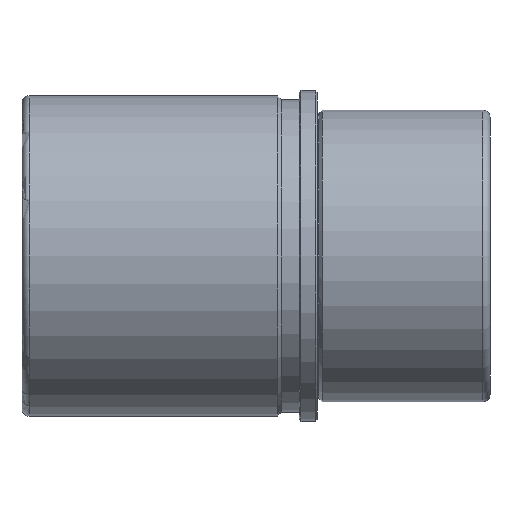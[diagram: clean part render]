
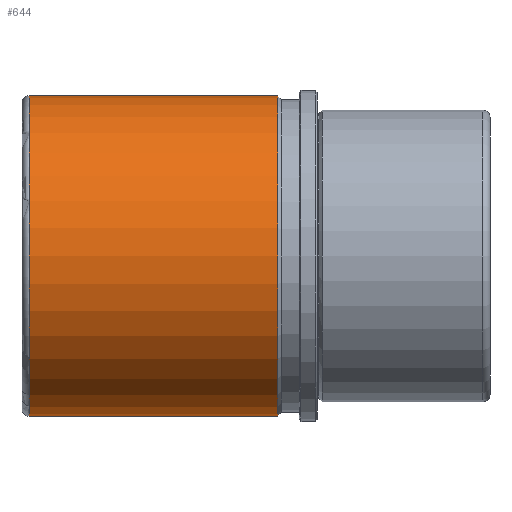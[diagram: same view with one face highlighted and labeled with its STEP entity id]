
A CAD part, front view. The second image highlights one B-rep face of the part: STEP entity #644.
In plain terms, the highlighted cylindrical face has radius 44.5 mm (diameter 89 mm), a partial arc.
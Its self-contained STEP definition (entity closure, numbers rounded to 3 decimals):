
#430=CARTESIAN_POINT('Line Origine',(48.,0.,44.5)) ;
#434=CARTESIAN_POINT('Vertex',(-11.,0.,44.5)) ;
#436=CARTESIAN_POINT('Vertex',(-80.,0.,44.5)) ;
#450=CARTESIAN_POINT('Vertex',(-11.,0.,-44.5)) ;
#453=CARTESIAN_POINT('Line Origine',(48.,0.,-44.5)) ;
#457=CARTESIAN_POINT('Vertex',(-80.,0.,-44.5)) ;
#607=CARTESIAN_POINT('Axis2P3D Location',(48.,0.,0.)) ;
#612=CARTESIAN_POINT('Axis2P3D Location',(-11.,0.,0.)) ;
#616=CARTESIAN_POINT('Vertex',(-11.,-44.5,0.)) ;
#619=CARTESIAN_POINT('Axis2P3D Location',(-11.,0.,0.)) ;
#624=CARTESIAN_POINT('Axis2P3D Location',(-80.,0.,0.)) ;
#628=CARTESIAN_POINT('Vertex',(-80.,-44.5,0.)) ;
#631=CARTESIAN_POINT('Axis2P3D Location',(-80.,0.,0.)) ;
#431=DIRECTION('Vector Direction',(-1.,0.,0.)) ;
#454=DIRECTION('Vector Direction',(-1.,0.,0.)) ;
#608=DIRECTION('Axis2P3D Direction',(-1.,-0.,-0.)) ;
#609=DIRECTION('Axis2P3D XDirection',(0.,0.,-1.)) ;
#613=DIRECTION('Axis2P3D Direction',(-1.,-0.,-0.)) ;
#620=DIRECTION('Axis2P3D Direction',(-1.,-0.,-0.)) ;
#625=DIRECTION('Axis2P3D Direction',(-1.,-0.,-0.)) ;
#632=DIRECTION('Axis2P3D Direction',(-1.,-0.,-0.)) ;
#610=AXIS2_PLACEMENT_3D('Cylinder Axis2P3D',#607,#608,#609) ;
#614=AXIS2_PLACEMENT_3D('Circle Axis2P3D',#612,#613,$) ;
#621=AXIS2_PLACEMENT_3D('Circle Axis2P3D',#619,#620,$) ;
#626=AXIS2_PLACEMENT_3D('Circle Axis2P3D',#624,#625,$) ;
#633=AXIS2_PLACEMENT_3D('Circle Axis2P3D',#631,#632,$) ;
#637=ORIENTED_EDGE('',*,*,#459,.T.) ;
#638=ORIENTED_EDGE('',*,*,#618,.F.) ;
#639=ORIENTED_EDGE('',*,*,#623,.F.) ;
#640=ORIENTED_EDGE('',*,*,#438,.T.) ;
#641=ORIENTED_EDGE('',*,*,#630,.T.) ;
#642=ORIENTED_EDGE('',*,*,#635,.T.) ;
#432=VECTOR('Line Direction',#431,1.) ;
#455=VECTOR('Line Direction',#454,1.) ;
#644=ADVANCED_FACE('FAMO-SF1-E63 x 130',(#643),#611,.T.) ;
#615=CIRCLE('generated circle',#614,44.5) ;
#622=CIRCLE('generated circle',#621,44.5) ;
#627=CIRCLE('generated circle',#626,44.5) ;
#634=CIRCLE('generated circle',#633,44.5) ;
#611=CYLINDRICAL_SURFACE('generated cylinder',#610,44.5) ;
#438=EDGE_CURVE('',#435,#437,#433,.T.) ;
#459=EDGE_CURVE('',#458,#451,#456,.F.) ;
#618=EDGE_CURVE('',#617,#451,#615,.F.) ;
#623=EDGE_CURVE('',#435,#617,#622,.F.) ;
#630=EDGE_CURVE('',#437,#629,#627,.F.) ;
#635=EDGE_CURVE('',#629,#458,#634,.F.) ;
#636=EDGE_LOOP('',(#637,#638,#639,#640,#641,#642)) ;
#643=FACE_OUTER_BOUND('',#636,.T.) ;
#433=LINE('Line',#430,#432) ;
#456=LINE('Line',#453,#455) ;
#435=VERTEX_POINT('',#434) ;
#437=VERTEX_POINT('',#436) ;
#451=VERTEX_POINT('',#450) ;
#458=VERTEX_POINT('',#457) ;
#617=VERTEX_POINT('',#616) ;
#629=VERTEX_POINT('',#628) ;
